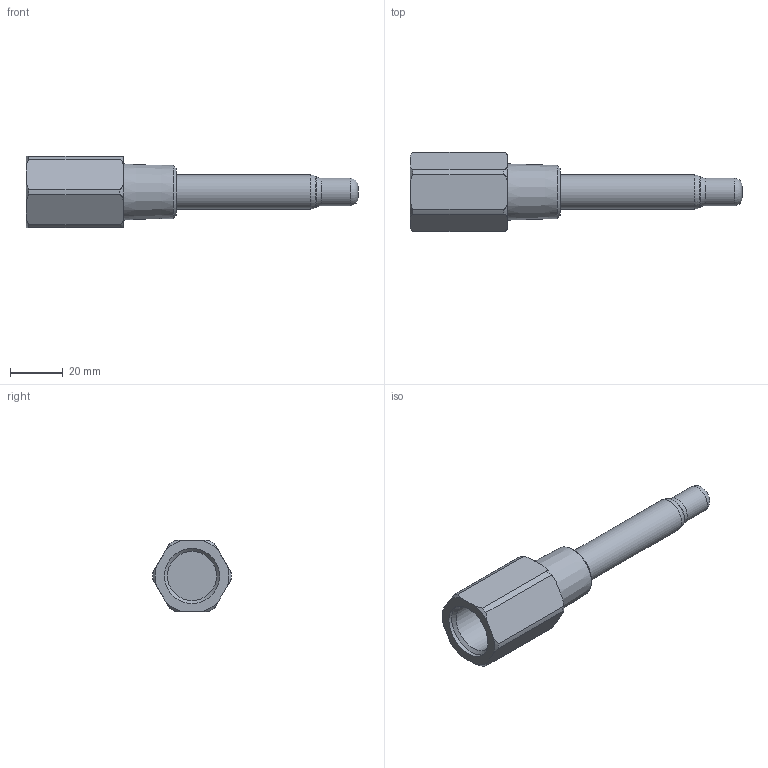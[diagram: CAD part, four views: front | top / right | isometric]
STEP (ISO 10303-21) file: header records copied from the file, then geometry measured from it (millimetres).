
FILE_DESCRIPTION(/* description */ ('STEP AP203'),/* implementation_level */ '2;1');
FILE_NAME(/* name */ 'E30397',/* time_stamp */ '2022-12-14T11:42:47+01:00',/* author */ ('License CC BY-ND 4.0'),/* organization */ ('CADENAS'),/* preprocessor_version */ 'ST-DEVELOPER v18.102',/* originating_system */ 'PARTsolutions',/* authorisation */ ' ');
FILE_SCHEMA (('CONFIG_CONTROL_DESIGN'));
Length unit declared in the file: millimetre
Products named in the file (1): E30397
Bounding box: 126 x 29.99 x 27 mm (x, y, z)
Volume: 28449.9 mm3; surface area: 10487.5 mm2
Topology: 1 solids, 1 shells, 41 faces, 93 edges, 57 vertices
Faces by surface type: cylinder 11, plane 11, cone 10, torus 9
Full cylindrical faces by diameter (mm): 10.5 x1, 13 x1, 18.631 x1, 20.955 x1, 21.336 x1
Entity records: 1204 total; most frequent: CARTESIAN_POINT 316, DIRECTION 180, ORIENTED_EDGE 162, EDGE_CURVE 81, AXIS2_PLACEMENT_3D 81, VERTEX_POINT 57, EDGE_LOOP 56, FACE_BOUND 56
